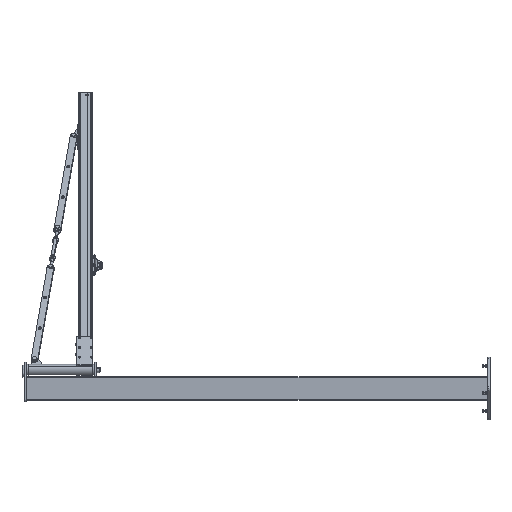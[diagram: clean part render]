
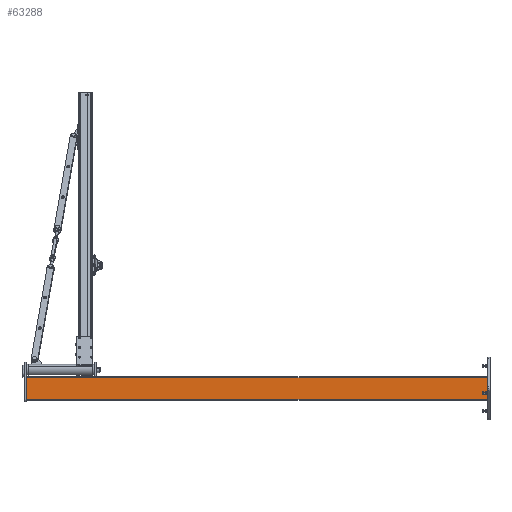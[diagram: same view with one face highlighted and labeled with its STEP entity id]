
A CAD part, left-side view. The second image highlights one B-rep face of the part: STEP entity #63288.
In plain terms, the highlighted planar face has unit normal (-1, 0, 0) as drawn and (0, 0, -1) by its records, which use the part's own axes.
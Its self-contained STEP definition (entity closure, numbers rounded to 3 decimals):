
#1985 = VECTOR ( 'NONE', #14279, 1000. ) ;
#4425 = LINE ( 'NONE', #7974, #43551 ) ;
#5960 = ORIENTED_EDGE ( 'NONE', *, *, #44032, .F. ) ;
#5976 = LINE ( 'NONE', #60301, #1985 ) ;
#6076 = VERTEX_POINT ( 'NONE', #32706 ) ;
#6436 = AXIS2_PLACEMENT_3D ( 'NONE', #36604, #31480, #47100 ) ;
#7974 = CARTESIAN_POINT ( 'NONE',  ( -90., -1741.5, -90. ) ) ;
#10028 = VERTEX_POINT ( 'NONE', #50718 ) ;
#11447 = EDGE_LOOP ( 'NONE', ( #5960, #31410, #35431, #22320 ) ) ;
#14279 = DIRECTION ( 'NONE',  ( 0., -1., 0. ) ) ;
#16475 = VECTOR ( 'NONE', #52069, 1000. ) ;
#19277 = EDGE_CURVE ( 'NONE', #10028, #6076, #45341, .T. ) ;
#20728 = PLANE ( 'NONE',  #6436 ) ;
#22320 = ORIENTED_EDGE ( 'NONE', *, *, #19277, .T. ) ;
#25470 = VERTEX_POINT ( 'NONE', #36042 ) ;
#30085 = LINE ( 'NONE', #57024, #16475 ) ;
#30718 = VERTEX_POINT ( 'NONE', #43869 ) ;
#31410 = ORIENTED_EDGE ( 'NONE', *, *, #59083, .T. ) ;
#31480 = DIRECTION ( 'NONE',  ( 0., 0., 1. ) ) ;
#32706 = CARTESIAN_POINT ( 'NONE',  ( -80., 1741.5, -90. ) ) ;
#33697 = FACE_OUTER_BOUND ( 'NONE', #11447, .T. ) ;
#35431 = ORIENTED_EDGE ( 'NONE', *, *, #49561, .T. ) ;
#35713 = VECTOR ( 'NONE', #62586, 1000. ) ;
#36042 = CARTESIAN_POINT ( 'NONE',  ( 80., 1741.5, -90. ) ) ;
#36604 = CARTESIAN_POINT ( 'NONE',  ( -90., 1741.5, -90. ) ) ;
#43551 = VECTOR ( 'NONE', #65416, 1000. ) ;
#43869 = CARTESIAN_POINT ( 'NONE',  ( 80., -1741.5, -90. ) ) ;
#44032 = EDGE_CURVE ( 'NONE', #25470, #6076, #30085, .T. ) ;
#45341 = LINE ( 'NONE', #47145, #35713 ) ;
#47100 = DIRECTION ( 'NONE',  ( 1., 0., 0. ) ) ;
#47145 = CARTESIAN_POINT ( 'NONE',  ( -80., 1741.5, -90. ) ) ;
#49561 = EDGE_CURVE ( 'NONE', #30718, #10028, #4425, .T. ) ;
#50718 = CARTESIAN_POINT ( 'NONE',  ( -80., -1741.5, -90. ) ) ;
#52069 = DIRECTION ( 'NONE',  ( -1., 0., 0. ) ) ;
#57024 = CARTESIAN_POINT ( 'NONE',  ( -90., 1741.5, -90. ) ) ;
#59083 = EDGE_CURVE ( 'NONE', #25470, #30718, #5976, .T. ) ;
#60301 = CARTESIAN_POINT ( 'NONE',  ( 80., 1741.5, -90. ) ) ;
#62586 = DIRECTION ( 'NONE',  ( 0., 1., 0. ) ) ;
#63288 = ADVANCED_FACE ( 'NONE', ( #33697 ), #20728, .F. ) ;
#65416 = DIRECTION ( 'NONE',  ( -1., 0., 0. ) ) ;
